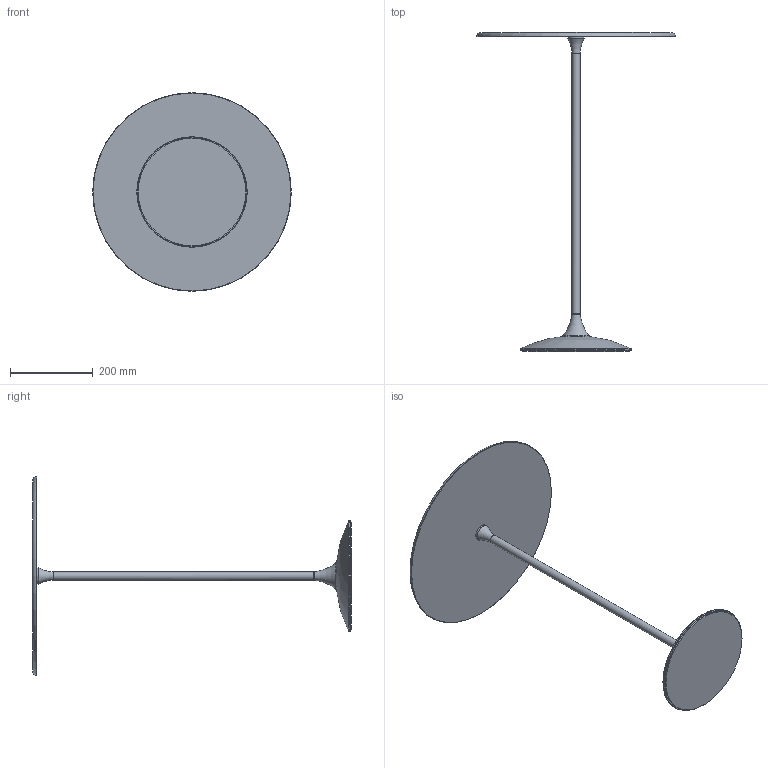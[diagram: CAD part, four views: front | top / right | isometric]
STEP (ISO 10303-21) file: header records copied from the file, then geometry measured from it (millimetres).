
FILE_DESCRIPTION((''),'2;1');
FILE_NAME('C:\AutodeskVault\AreaLavoro\Progetti\SoVeT Italia\2. Tavolini_Coffee tables\Tulip\Web file\Tulip Web\P4624.stp','2012-06-14T17:29:21',('Gianluca'),('So.Ve.T. s.r.l.'),'Autodesk Inventor 2013','Autodesk Inventor 2013','IL PROGETTO E'' DI ESCLUSIVA PROPRIETA'' DELLA SO.VE.T. srl. E'' VIETATA OGNI RIPRODUZIONE TOTALE O PARZIALE E QUALSIASI UTILIZZO NON AUTORIZZATO. ');
FILE_SCHEMA(('AUTOMOTIVE_DESIGN { 1 0 10303 214 1 1 1 1 }'));
Length unit declared in the file: millimetre
Products named in the file (1): P4624 LCTR Contorno semplificato
Bounding box: 480 x 770.45 x 480 mm (x, y, z)
Volume: 3331916.6 mm3; surface area: 536621.3 mm2
Topology: 1 solids, 1 shells, 26 faces, 51 edges, 30 vertices
Faces by surface type: cone 7, torus 7, plane 6, cylinder 5, bspline 1
Full cylindrical faces by diameter (mm): 20 x1, 40 x1, 60 x1, 260 x1, 267 x1
Entity records: 614 total; most frequent: CARTESIAN_POINT 102, DIRECTION 102, AXIS2_PLACEMENT_3D 51, ORIENTED_EDGE 50, EDGE_LOOP 50, STYLED_ITEM 27, FACE_OUTER_BOUND 26, ADVANCED_FACE 26
